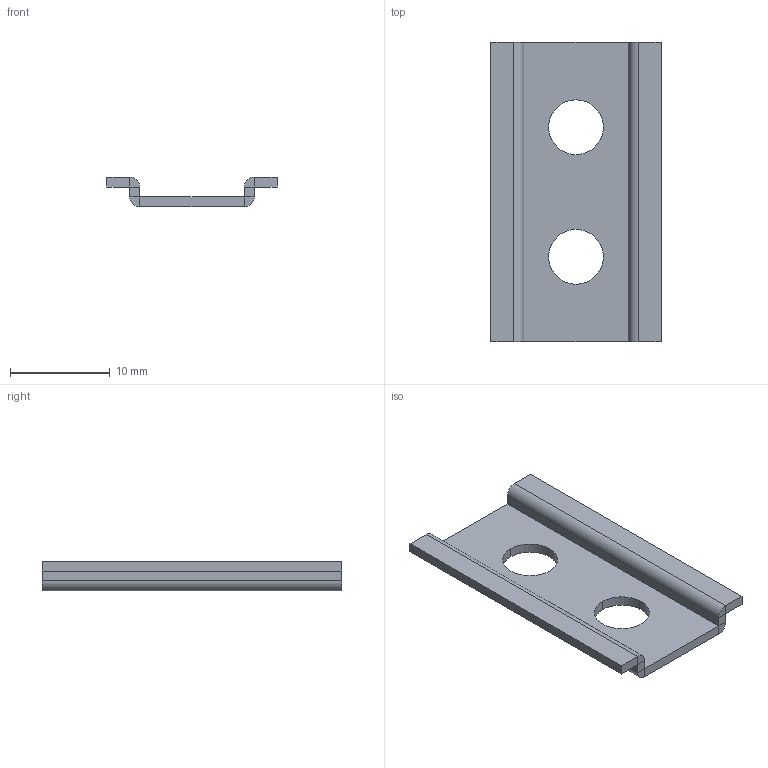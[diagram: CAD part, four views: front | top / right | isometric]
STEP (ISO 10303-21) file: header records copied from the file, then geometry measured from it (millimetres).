
FILE_DESCRIPTION((''),'2;1');
FILE_NAME('S20DJ','2025-03-25T17:37:02',('Administrator'),(''),'CREO PARAMETRIC BY PTC INC, 2020053','CREO PARAMETRIC BY PTC INC, 2020053','');
FILE_SCHEMA(('CONFIG_CONTROL_DESIGN'));
Length unit declared in the file: millimetre
Products named in the file (1): S20DJ
Bounding box: 17.1 x 30 x 3 mm (x, y, z)
Volume: 559.7 mm3; surface area: 1254.5 mm2
Topology: 1 solids, 1 shells, 38 faces, 76 edges, 40 vertices
Faces by surface type: plane 30, cylinder 8
Entity records: 986 total; most frequent: DIRECTION 168, CARTESIAN_POINT 154, ORIENTED_EDGE 152, EDGE_CURVE 76, VECTOR 60, LINE 60, AXIS2_PLACEMENT_3D 54, EDGE_LOOP 42
